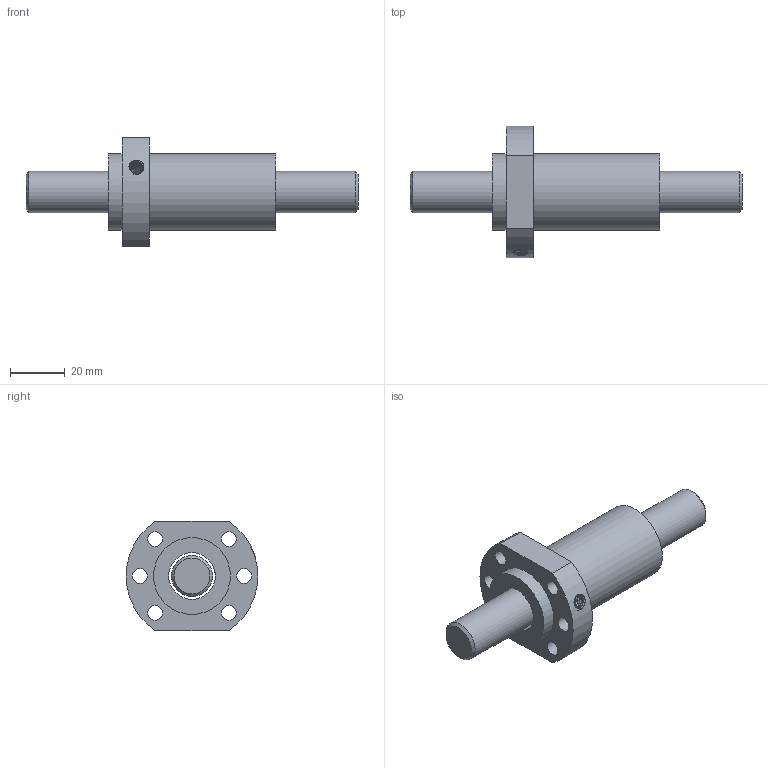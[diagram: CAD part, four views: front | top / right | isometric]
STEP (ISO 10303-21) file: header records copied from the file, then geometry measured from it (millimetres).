
FILE_DESCRIPTION(/* description */ ('Unknown','CAx-IF Rec.Pracs.---Representation and Presentation of Product Manufacturing Information (PMI)---4.0---2014-10-13','CAx-IF Rec.Pracs.---3D Tessellated Geometry---0.4---2014-09-14','2;1'),/* implementation_level */ '2;1');
FILE_NAME(/* name */ 'SFH1616-2.8',/* time_stamp */ '2020-12-07T15:22:07+08:00',/* author */ ('Unknown'),/* organization */ ('Unknown'),/* preprocessor_version */ 'ST-DEVELOPER v16.7',/* originating_system */ 'Solid Edge',/* authorisation */ 'Unknown');
FILE_SCHEMA (('AP242_MANAGED_MODEL_BASED_3D_ENGINEERING_MIM_LF { 1 0 10303 442 1 1 4 }'));
Length unit declared in the file: millimetre
Products named in the file (1): SFH1616-2.8
Bounding box: 121 x 48 x 40 mm (x, y, z)
Volume: 53849.6 mm3; surface area: 19118.3 mm2
Topology: 2 solids, 2 shells, 30 faces, 68 edges, 44 vertices
Faces by surface type: cylinder 16, plane 9, cone 3, bspline 2
Full cylindrical faces by diameter (mm): 4 x1, 4.917 x1, 5.5 x6, 15 x1, 17 x1, 28 x2
Entity records: 3044 total; most frequent: CARTESIAN_POINT 2342, DIRECTION 134, ORIENTED_EDGE 100, AXIS2_PLACEMENT_3D 64, EDGE_LOOP 63, FACE_BOUND 63, EDGE_CURVE 50, VERTEX_POINT 41
